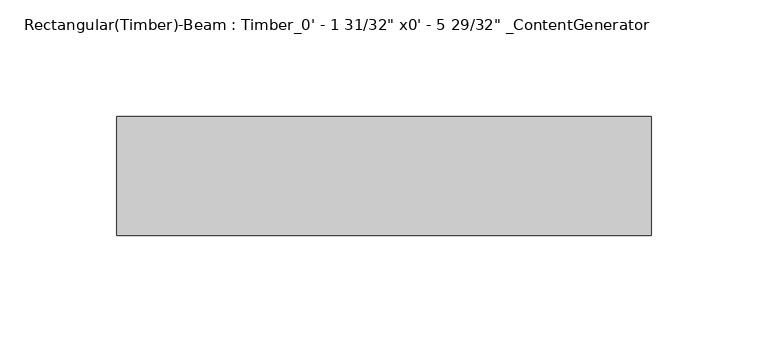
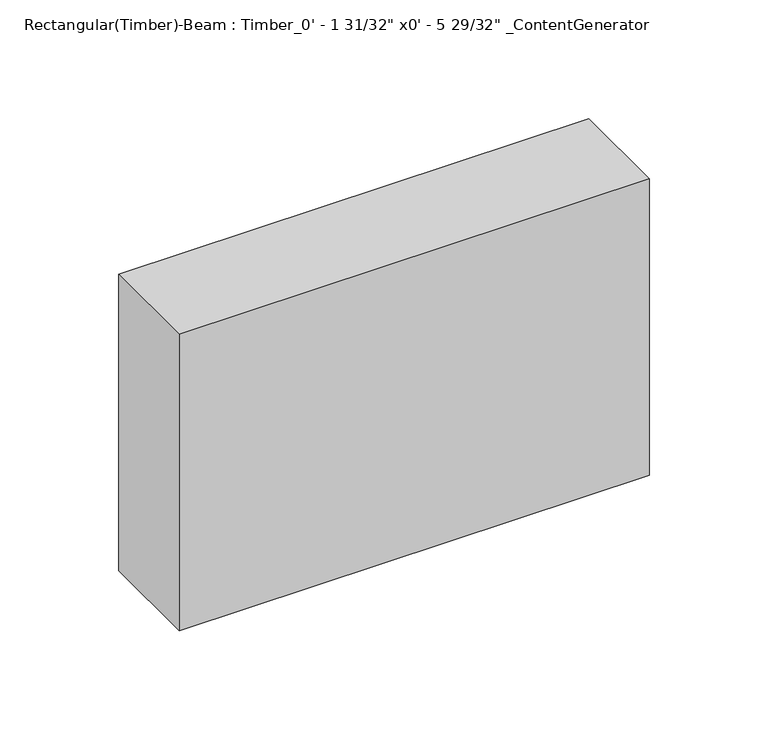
"""IFC4 building model written with IfcOpenShell, lengths in millimetres: beam geometry."""

from ifc_helpers import new_model, si_unit, frame, origin, place, context, project, spatial, polyline, outline, extrude, source, transform, mapped, element, save


def beam_ea41eedf(model_context):
    return source(origin(), model_context, "Body", "SweptSolid", [
        extrude(outline(polyline([(127.0149994, 25.4), (127.0149994, -25.4), (-101.615, -25.4), (-101.615, 25.4), (127.0149994, 25.4)])), frame((0.0, 0.0, -76.2), z_axis=(0.0, 0.0, 1.0), x_axis=(1.0, 0.0, 0.0)), (0.0, 0.0, 1.0), 152.4),
    ])


if __name__ == "__main__":
    model = new_model("IFC4")
    model_context = context("Model", 3, world=origin())
    ifc_project = project(units=[si_unit("LENGTHUNIT", "METRE", prefix="MILLI")], contexts=[model_context])
    site = spatial("IfcSite", under=ifc_project)
    building = spatial("IfcBuilding", under=site)
    placement = place(None, origin())
    beam_shape = beam_ea41eedf(model_context)
    element("IfcBeam", 1, ObjectType="Rectangular(Timber)-Beam : Timber_0' - 1 31/32\" x0' - 5 29/32\" _ContentGenerator", at=placement, inside=building, context=model_context, shape_type="MappedRepresentation", body=[
        mapped(beam_shape, transform((0.0, 0.0, 0.0), x_axis=(1.0, 0.0, 0.0), y_axis=(0.0, 1.0, 0.0), z_axis=(0.0, 0.0, 1.0))),
    ])
    save(model, "model.ifc")
